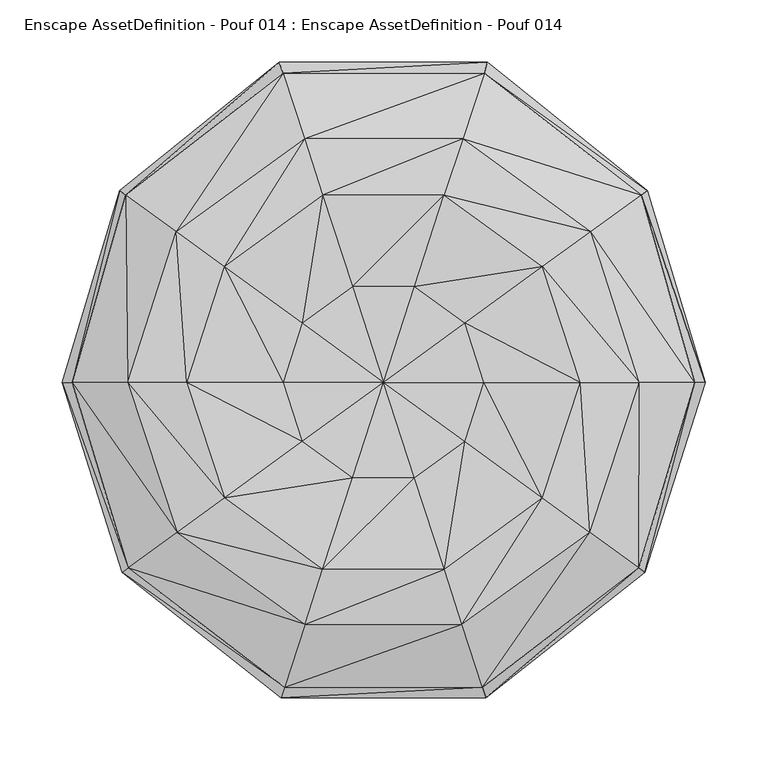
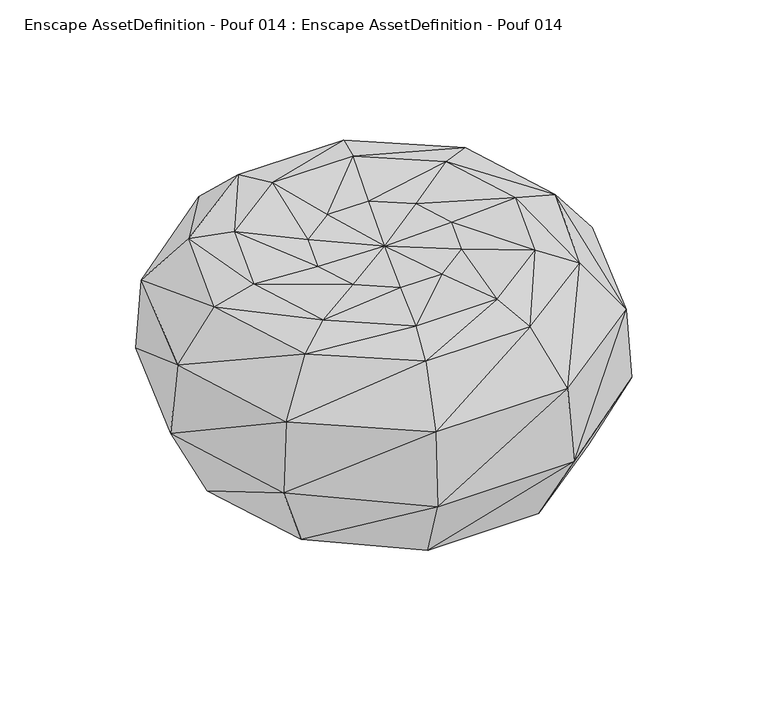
"""IFC4 building model written with IfcOpenShell, lengths in millimetres: geographic element geometry, Enscape AssetDefinition - Pouf 014 : Enscape AssetDefinition - Pouf 014."""

from ifc_helpers import new_model, si_unit, origin, place, context, project, spatial, faceted_brep, source, transform, mapped, element, save


def enscape_assetdefinition_pouf_014_enscape_assetdefinition_d4033687(model_context):
    return source(origin(), model_context, "Body", "Brep", [
        faceted_brep([(112.8175427, -2.3969334, 5.3224545), (91.359485, -68.7601168, 5.3372092), (34.900278, -109.7570886, 5.606987), (67.2763314, -209.0996062, 52.2844319), (174.0686188, -128.7449571, 54.7940486), (-67.1012267, -209.1520712, 52.2808461), (-34.8435911, -109.7047474, 5.5942208), (-91.3656547, -68.7692475, 5.3389472), (82.6338533, -256.6569593, 142.2384125), (210.7362437, -155.5049737, 143.5843534), (215.2306921, -2.2830796, 54.6709867), (259.7777481, -2.3692612, 143.7187471), (206.1100249, -152.1143842, 230.4173031), (251.1392634, -2.3854122, 228.8281092), (-82.626068, -256.6604044, 142.2435126), (79.8545879, -248.1726046, 232.08927), (166.4343884, -123.3095164, 286.6711451), (206.3900708, -2.4256833, 287.0244169), (207.983543, 148.6013351, 231.1145245), (167.3274416, 119.054054, 287.3890598), (158.6701663, -2.374703, 299.8450369), (128.3770154, 90.9024373, 299.934385), (128.3166018, -95.5853374, 299.7495191), (63.4735371, -197.63524, 286.2641248), (81.1900415, -2.3896625, 295.6204117), (65.6825271, 45.3267775, 295.5744992), (48.9987724, 148.5013139, 300.0), (25.0911204, 74.8239214, 295.6037264), (1.52e-05, -2.3757657, 293.4342428), (65.6813056, -50.1072868, 295.5778993), (49.0295815, -153.1662397, 299.6747396), (25.0830902, -79.5980724, 295.6272569), (-48.95049, -153.1888469, 299.6750323), (-63.3949916, -197.6571041, 286.266962), (-25.0917509, -79.5925219, 295.6269642), (-128.2725808, -95.6341772, 299.7497893), (-166.4394998, -123.3028851, 286.6716405), (-206.1264399, -152.0907299, 230.4236529), (-79.9073118, -248.1564372, 232.0913416), (-251.1383177, -2.3723046, 228.8303835), (-206.3881118, -2.2826395, 287.0289428), (-158.6669351, -2.4049406, 299.8451269), (-65.6796168, -50.0940523, 295.5764807), (-81.1820366, -2.3745209, 295.6194434), (-128.3921694, 90.8840576, 299.9339797), (-167.2347947, 119.2070806, 287.3858399), (-207.8799865, 148.7327228, 231.1585231), (-81.0459485, 247.2190928, 233.4715987), (-63.8138727, 194.1618324, 287.782232), (-49.0425514, 148.490652, 299.9996848), (-65.6763968, 45.3399022, 295.574972), (-25.0839571, 74.8296126, 295.6040417), (63.930354, 194.1173384, 287.7842586), (81.3233375, 247.1328745, 233.4660595), (212.7971271, 152.2482375, 143.1338188), (84.0108792, 256.0661539, 141.439177), (175.1222194, 125.2225859, 53.2886749), (67.3500019, 206.8239766, 50.0391386), (-84.131042, 256.0181023, 141.3887048), (-68.5481796, 206.450642, 50.0493163), (-212.8261968, 152.2013342, 143.124992), (34.9440036, 105.1294512, 4.8642316), (-34.9363027, 105.1717722, 4.8704703), (-91.3737384, 64.0194601, 4.8681703), (-175.4781482, 124.7182014, 53.2730705), (-259.3117779, -2.3825203, 143.8116754), (-112.9502926, -2.3535733, 5.345581), (-215.2210322, -2.4713356, 54.6710655), (-210.7380226, -155.5013259, 143.5821017), (-173.979372, -128.8634649, 54.7874455), (91.5291181, 64.0638076, 4.8935053)], [[[0, 1, 2]], [[3, 2, 1]], [[4, 1, 0]], [[3, 1, 4]], [[5, 6, 2]], [[7, 2, 6]], [[0, 2, 7]], [[5, 2, 3]], [[5, 3, 8]], [[3, 4, 9]], [[3, 9, 8]], [[4, 10, 11]], [[4, 0, 10]], [[4, 11, 9]], [[8, 9, 12]], [[9, 11, 13]], [[9, 13, 12]], [[14, 8, 15]], [[5, 8, 14]], [[8, 12, 15]], [[15, 12, 16]], [[12, 13, 17]], [[12, 17, 16]], [[13, 18, 19]], [[13, 19, 17]], [[11, 18, 13]], [[20, 17, 21]], [[21, 17, 19]], [[20, 16, 17]], [[22, 16, 20]], [[15, 16, 23]], [[22, 23, 16]], [[24, 20, 25]], [[25, 20, 21]], [[24, 22, 20]], [[21, 19, 26]], [[25, 21, 27]], [[27, 21, 26]], [[28, 24, 25]], [[28, 25, 27]], [[29, 22, 24]], [[28, 29, 24]], [[30, 23, 22]], [[29, 30, 22]], [[31, 30, 29]], [[28, 31, 29]], [[32, 33, 30]], [[30, 33, 23]], [[31, 32, 30]], [[34, 32, 31]], [[28, 34, 31]], [[35, 36, 32]], [[32, 36, 33]], [[34, 35, 32]], [[37, 38, 33]], [[37, 33, 36]], [[38, 23, 33]], [[39, 37, 36]], [[39, 36, 40]], [[35, 40, 36]], [[41, 40, 35]], [[42, 35, 34]], [[42, 41, 35]], [[28, 42, 34]], [[43, 41, 42]], [[28, 43, 42]], [[44, 45, 41]], [[41, 45, 40]], [[43, 44, 41]], [[46, 39, 40]], [[46, 40, 45]], [[47, 46, 45]], [[47, 45, 48]], [[44, 48, 45]], [[49, 48, 44]], [[50, 44, 43]], [[50, 49, 44]], [[28, 50, 43]], [[51, 49, 50]], [[28, 51, 50]], [[28, 27, 51]], [[27, 26, 51]], [[51, 26, 49]], [[26, 52, 49]], [[49, 52, 48]], [[53, 47, 48]], [[53, 48, 52]], [[18, 53, 52]], [[18, 52, 19]], [[26, 19, 52]], [[54, 55, 53]], [[54, 53, 18]], [[55, 47, 53]], [[11, 54, 18]], [[10, 56, 54]], [[10, 54, 11]], [[56, 55, 54]], [[56, 57, 55]], [[55, 58, 47]], [[57, 58, 55]], [[58, 46, 47]], [[57, 59, 58]], [[58, 60, 46]], [[59, 60, 58]], [[57, 61, 62]], [[56, 61, 57]], [[57, 62, 59]], [[59, 62, 63]], [[59, 64, 60]], [[59, 63, 64]], [[60, 65, 39]], [[64, 65, 60]], [[60, 39, 46]], [[64, 63, 66]], [[64, 67, 65]], [[64, 66, 67]], [[65, 68, 37]], [[67, 68, 65]], [[65, 37, 39]], [[67, 66, 7]], [[67, 69, 68]], [[67, 7, 69]], [[63, 7, 66]], [[69, 7, 6]], [[0, 7, 63]], [[69, 5, 14]], [[69, 6, 5]], [[69, 14, 68]], [[68, 14, 38]], [[68, 38, 37]], [[14, 15, 38]], [[38, 15, 23]], [[10, 0, 70]], [[0, 61, 70]], [[0, 63, 61]], [[56, 70, 61]], [[10, 70, 56]], [[61, 63, 62]]]),
    ])


if __name__ == "__main__":
    model = new_model("IFC4")
    model_context = context("Model", 3, world=origin())
    ifc_project = project(units=[si_unit("LENGTHUNIT", "METRE", prefix="MILLI")], contexts=[model_context])
    site = spatial("IfcSite", under=ifc_project)
    building = spatial("IfcBuilding", under=site)
    placement = place(None, origin())
    enscape_assetdefinition_pouf_014_enscape_assetdefinition_shape = enscape_assetdefinition_pouf_014_enscape_assetdefinition_d4033687(model_context)
    element("IfcGeographicElement", 1, ObjectType="Enscape AssetDefinition - Pouf 014 : Enscape AssetDefinition - Pouf 014", at=placement, inside=building, context=model_context, shape_type="MappedRepresentation", body=[
        mapped(enscape_assetdefinition_pouf_014_enscape_assetdefinition_shape, transform((0.0, 0.0, 0.0), x_axis=(1.0, 0.0, 0.0), y_axis=(0.0, 1.0, 0.0), z_axis=(0.0, 0.0, 1.0))),
    ])
    save(model, "model.ifc")
